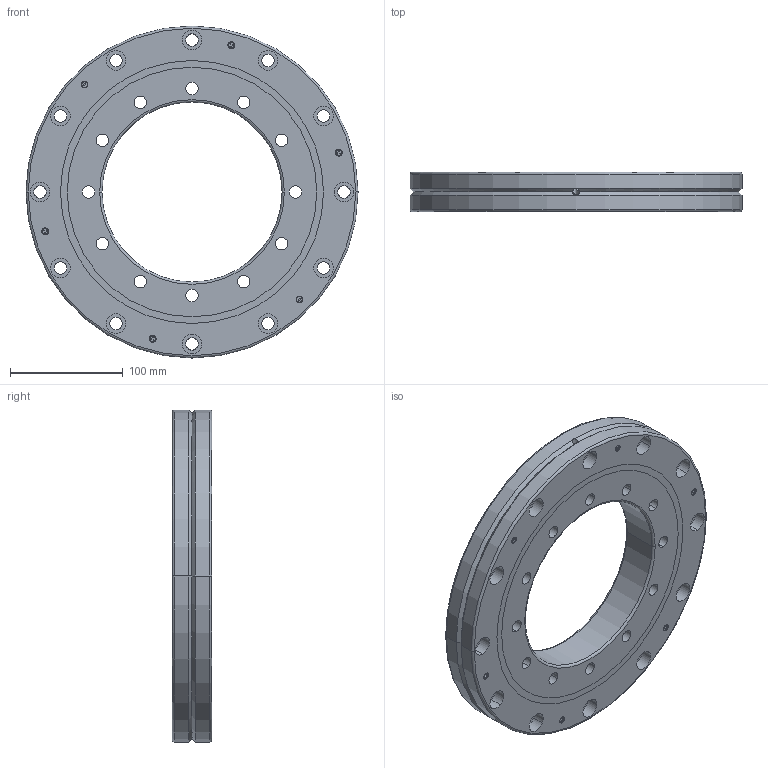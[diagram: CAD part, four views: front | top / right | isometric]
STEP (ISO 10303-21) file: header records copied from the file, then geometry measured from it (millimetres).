
FILE_DESCRIPTION(('starvars output'),'2;1');
FILE_NAME('cv20160920050346000003189.stp','05:03:47 2016/09/20',( 'Thomas Industrial Network Germany GmbH'),( 'Thomas Industrial Network Germany GmbH'),'unknown preprocess','ACIS' ,'unknown authorization');
FILE_SCHEMA(('AUTOMOTIVE_DESIGN_CC2 {UNKNOWN IMPLEMENTATION LEVEL}'));
Length unit declared in the file: millimetre
Products named in the file (1): PRODUCT_ID_1
Bounding box: 295 x 35 x 295 mm (x, y, z)
Volume: 1505485.8 mm3; surface area: 284539.6 mm2
Topology: 1 solids, 1 shells, 812 faces, 1952 edges, 1312 vertices
Faces by surface type: cylinder 504, plane 252, torus 32, cone 24
Entity records: 30601 total; most frequent: CARTESIAN_POINT 7426, ORIENTED_EDGE 3904, DIRECTION 2612, EDGE_CURVE 1952, VERTEX_POINT 1312, EDGE_LOOP 1148, FACE_BOUND 1148, AXIS2_PLACEMENT_3D 934
